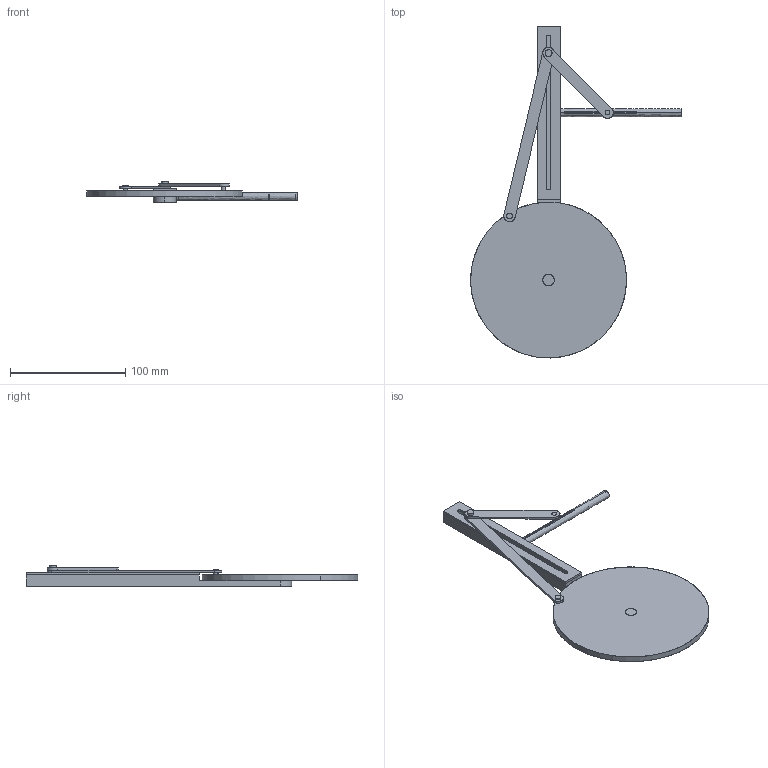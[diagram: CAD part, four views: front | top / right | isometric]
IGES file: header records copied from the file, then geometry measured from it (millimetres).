
Start section: SolidWorks IGES file using analytic representation for surfaces
Global section: file name: C:\Users\Ever Ortega Calderón\Documents\TEC\II S 2022\Física Computacional II\SOLID WORKS\Tarea 2\Pieza 3\Ensamblaje 3 Pieza 3 Tarea 2.IGS; native system: SolidWorks 2022; preprocessor: SolidWorks 2022; author: Ever Ortega Calderón; date: 220827.094222; units: millimetre
Bounding box: 182.48 x 287.48 x 18 mm (x, y, z)
Surface area: 62728.6 mm2 (no closed solid volume)
Topology: 0 solids, 0 shells, 127 faces, 2658 edges, 2658 vertices
Faces by surface type: revolution 71, bspline 56
